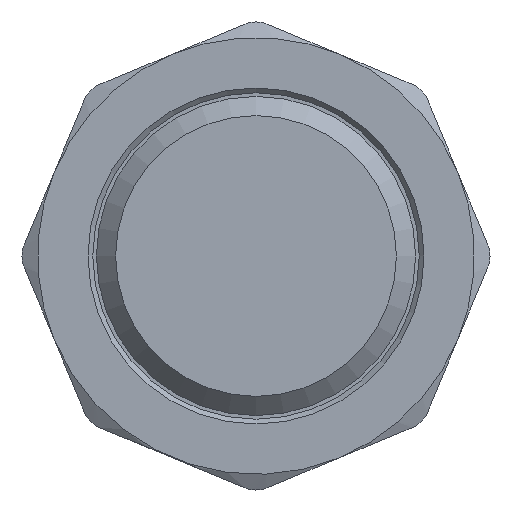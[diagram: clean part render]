
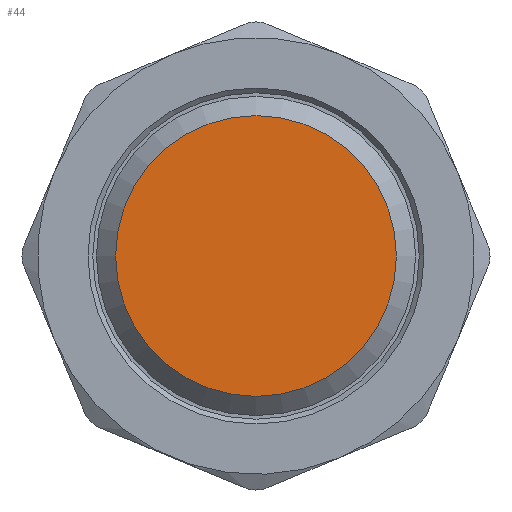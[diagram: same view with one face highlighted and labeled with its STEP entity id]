
A CAD part, front view. The second image highlights one B-rep face of the part: STEP entity #44.
In plain terms, the highlighted planar face has unit normal (0, -1, 0).
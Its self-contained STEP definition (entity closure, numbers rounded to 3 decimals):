
#44=ADVANCED_FACE('',(#105),#107,.F.);
#105=FACE_BOUND('',#106,.T.);
#106=EDGE_LOOP('',(#550));
#107=PLANE('',#108);
#108=AXIS2_PLACEMENT_3D('',#109,#110,#111);
#109=CARTESIAN_POINT('',(0.,0.,0.));
#110=DIRECTION('',(0.,1.,0.));
#111=DIRECTION('',(-1.,0.,0.));
#550=ORIENTED_EDGE('',*,*,#840,.T.);
#840=EDGE_CURVE('',#985,#985,#986,.F.);
#985=VERTEX_POINT('',#1226);
#986=CIRCLE('',#1227,14.625);
#1226=CARTESIAN_POINT('',(14.625,0.,0.));
#1227=AXIS2_PLACEMENT_3D('',#1228,#1229,#1230);
#1228=CARTESIAN_POINT('',(0.,0.,0.));
#1229=DIRECTION('',(0.,1.,0.));
#1230=DIRECTION('',(1.,0.,0.));
